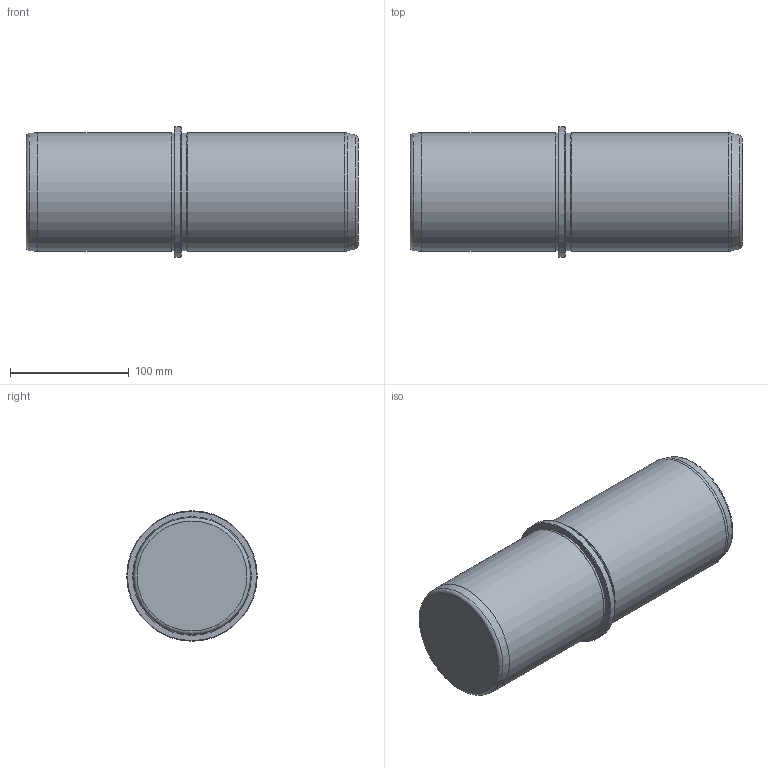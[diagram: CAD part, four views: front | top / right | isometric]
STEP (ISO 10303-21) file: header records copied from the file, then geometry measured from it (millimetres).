
FILE_DESCRIPTION(/* description */ ('Impex Ready, www.impex-ready.pl'),/* implementation_level */ '2;1');
FILE_NAME(/* name */ 'C:\Users\VIKKY\Nextcloud\SM\projekt 10 - części na stronę internetową\Pliki_3D_new\267 Słupy WDX\267_słupy_WDX_STEP\WDX100280.ipt.step',/* time_stamp */ '2022-01-18T10:47:11+01:00',/* author */ ('SM'),/* organization */ (''),/* preprocessor_version */ 'ST-DEVELOPER v18.1',/* originating_system */ 'Autodesk Inventor 2021',/* authorisation */ '');
FILE_SCHEMA (('AUTOMOTIVE_DESIGN { 1 0 10303 214 3 1 1 }'));
Length unit declared in the file: millimetre
Products named in the file (1): WDX100280
Bounding box: 280 x 110 x 110 mm (x, y, z)
Volume: 2198220.4 mm3; surface area: 106820.9 mm2
Topology: 1 solids, 1 shells, 21 faces, 42 edges, 25 vertices
Faces by surface type: cone 8, cylinder 6, plane 4, torus 3
Full cylindrical faces by diameter (mm): 12 x1, 99 x2, 100 x2, 110 x1
Entity records: 653 total; most frequent: DIRECTION 112, CARTESIAN_POINT 88, ORIENTED_EDGE 82, AXIS2_PLACEMENT_3D 49, EDGE_CURVE 41, CIRCLE 27, VERTEX_POINT 25, EDGE_LOOP 24
